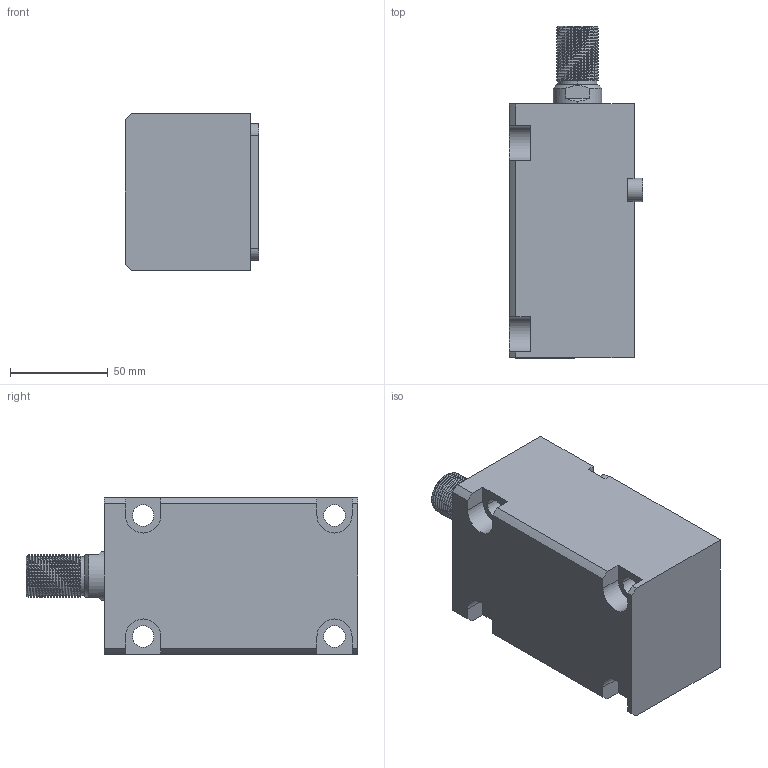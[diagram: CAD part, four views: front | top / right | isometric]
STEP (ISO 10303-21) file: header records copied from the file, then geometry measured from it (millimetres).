
FILE_DESCRIPTION (( 'STEP AP214' ), '1' );
FILE_NAME ('chtb-lam40x75w_asm.STEP', '2018-05-30T03:01:28', ( 'Windows' ), ( 'Microsoft' ), 'SwSTEP 2.0', 'SolidWorks 2015', '' );
FILE_SCHEMA (( 'AUTOMOTIVE_DESIGN' ));
Length unit declared in the file: millimetre
Products named in the file (5): CHTB-SD40X75WHSG; CHTB-SD40QG; CHTB-LAM40X75NBT; CHTB-LA40PJ; chtb-lam40x75w_asm
Assembly tree (4 placements, depth 2):
  chtb-lam40x75w_asm
    CHTB-LA40PJ
    CHTB-LAM40X75NBT
    CHTB-SD40QG
    CHTB-SD40X75WHSG
Bounding box: 68.5 x 170 x 80 mm (x, y, z)
Volume: 588030.2 mm3; surface area: 103590.5 mm2
Topology: 4 solids, 5 shells, 199 faces, 547 edges, 365 vertices
Faces by surface type: cylinder 111, plane 50, bspline 16, torus 12, cone 10
Entity records: 13609 total; most frequent: CARTESIAN_POINT 8674, ORIENTED_EDGE 1082, DIRECTION 894, EDGE_CURVE 541, VERTEX_POINT 365, AXIS2_PLACEMENT_3D 349, EDGE_LOOP 226, FACE_OUTER_BOUND 199
